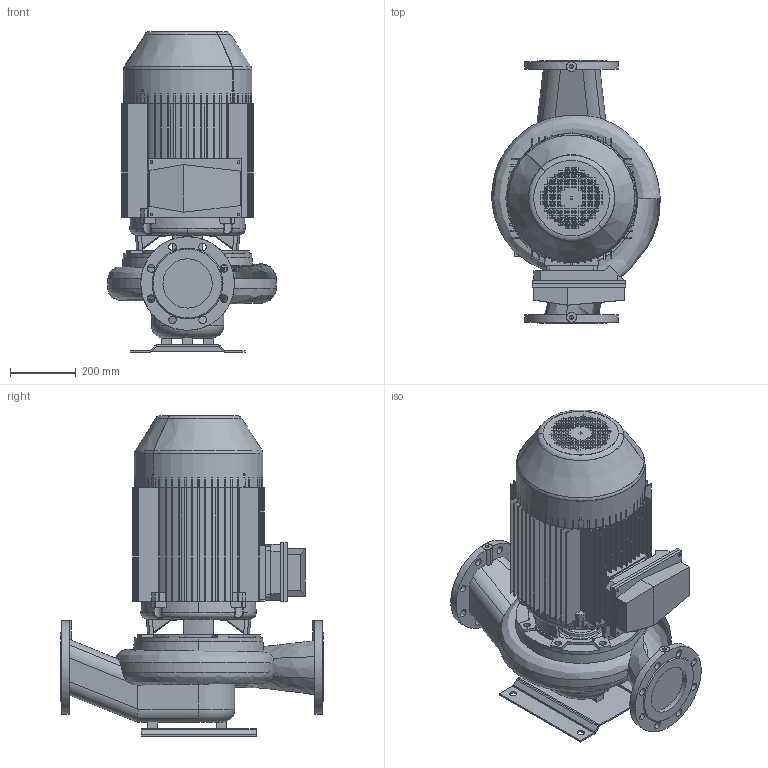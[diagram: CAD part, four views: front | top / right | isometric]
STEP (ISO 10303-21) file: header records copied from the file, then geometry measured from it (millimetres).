
FILE_DESCRIPTION(('STEP AP214'),'1');
FILE_NAME('export.stp','2018-05-28T10:52:04',(' '),(' '),'Spatial InterOp 3D',' ',' ');
FILE_SCHEMA(('AUTOMOTIVE_DESIGN { 1 0 10303 214 1 1 1 1 }'));
Length unit declared in the file: millimetre
Products named in the file (13): W_AL11544300KP205; V_TL110611291154; P100496; P100495; P100342; V_PPAL1154; R200363; R200118; V_MKP205-K2-F32; R200144; R200138; R200137; R200368
Assembly tree (13 placements, depth 4):
  W_AL11544300KP205
    V_TL110611291154
    P100496
      P100495  x2
      P100342
    V_PPAL1154
    V_MKP205-K2-F32
      R200363
        R200118
      R200144
      R200138
      R200137
      R200368
Bounding box: 513.03 x 800 x 977 mm (x, y, z)
Volume: 17637020.2 mm3; surface area: 5145000.4 mm2
Topology: 9 solids, 10 shells, 1834 faces, 5337 edges, 3534 vertices
Faces by surface type: plane 1313, cylinder 396, cone 54, torus 39, bspline 32
Entity records: 94784 total; most frequent: CARTESIAN_POINT 15895, ORIENTED_EDGE 10617, DIRECTION 9626, EDGE_CURVE 5315, STYLED_ITEM 4691, PRESENTATION_STYLE_ASSIGNMENT 4691, COLOUR_RGB 4691, LINE 4106
